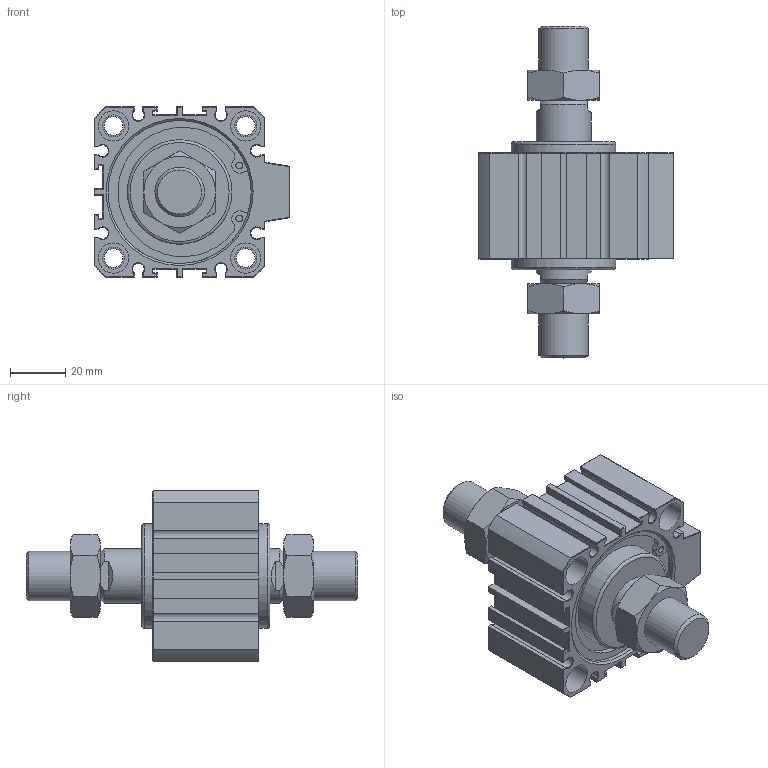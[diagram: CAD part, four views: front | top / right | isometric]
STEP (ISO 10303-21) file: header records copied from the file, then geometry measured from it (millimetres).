
FILE_DESCRIPTION(/* description */ (''),/* implementation_level */ '2;1');
FILE_NAME(/* name */ 'AJC-SW50X10W',/* time_stamp */ '2019-07-02T15:31:03+08:00',/* author */ ('JEFF HUANG'),/* organization */ ('TAIWAN AMAC CLAMP INDUSTRIAL CO., LTD.'),/* preprocessor_version */ 'ST-DEVELOPER v16.7',/* originating_system */ 'DEX',/* authorisation */ $);
FILE_SCHEMA (('AUTOMOTIVE_DESIGN {1 0 10303 214 3 1 1}'));
Length unit declared in the file: millimetre
Products named in the file (1): AJC-SW50X10W
Bounding box: 71 x 120.6 x 62 mm (x, y, z)
Volume: 159222.2 mm3; surface area: 36590.9 mm2
Topology: 1 solids, 1 shells, 432 faces, 970 edges, 540 vertices
Faces by surface type: plane 266, cone 90, cylinder 74, torus 2
Full cylindrical faces by diameter (mm): 2.5 x4, 6.8 x4, 8 x8, 11 x8, 12.301 x2, 18 x2, 20 x2, 38 x2, 52 x2
Entity records: 14254 total; most frequent: CARTESIAN_POINT 2079, DIRECTION 1898, ORIENTED_EDGE 1776, EDGE_CURVE 888, AXIS2_PLACEMENT_3D 649, LINE 600, VECTOR 600, VERTEX_POINT 532
